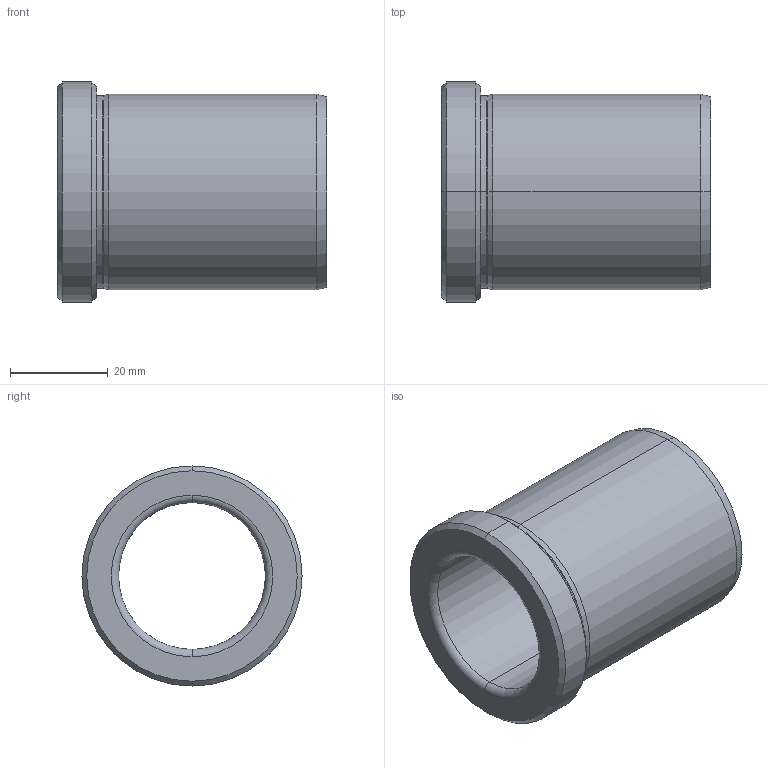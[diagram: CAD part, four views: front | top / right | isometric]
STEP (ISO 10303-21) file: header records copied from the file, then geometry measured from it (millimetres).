
FILE_DESCRIPTION (( 'STEP AP214' ), '1' );
FILE_NAME ('BRCVBG-30x55.STEP', '2020-07-21T12:34:32', ( '' ), ( '' ), 'SwSTEP 2.0', 'SolidWorks 2018', '' );
FILE_SCHEMA (( 'AUTOMOTIVE_DESIGN' ));
Length unit declared in the file: millimetre
Products named in the file (1): BRCVBG-30x55
Bounding box: 55 x 45 x 45 mm (x, y, z)
Volume: 32583.1 mm3; surface area: 13737.5 mm2
Topology: 1 solids, 1 shells, 23 faces, 46 edges, 26 vertices
Faces by surface type: cone 8, cylinder 8, torus 4, plane 3
Entity records: 636 total; most frequent: DIRECTION 124, CARTESIAN_POINT 96, ORIENTED_EDGE 92, AXIS2_PLACEMENT_3D 54, EDGE_CURVE 46, CIRCLE 30, EDGE_LOOP 26, VERTEX_POINT 26
